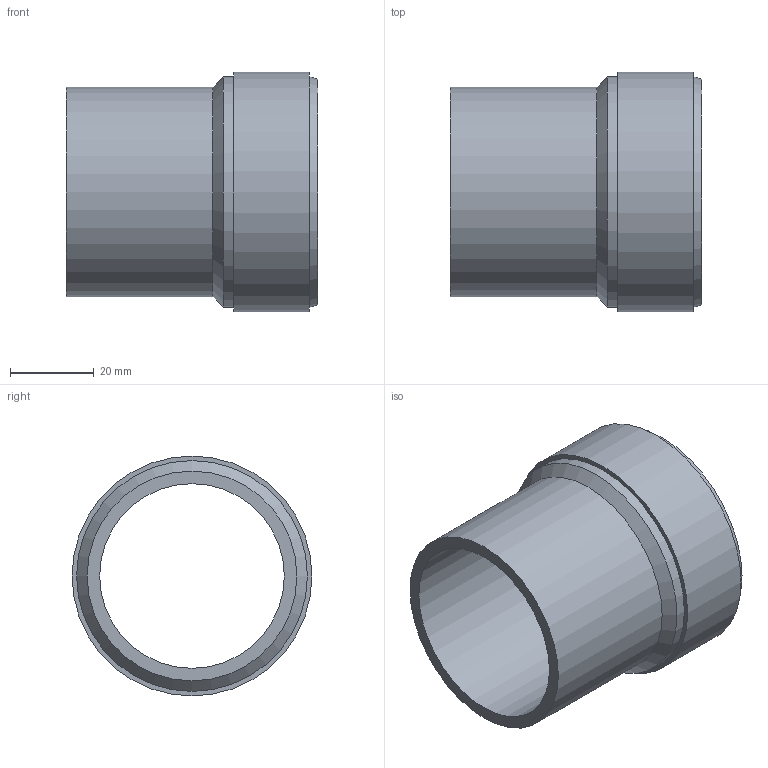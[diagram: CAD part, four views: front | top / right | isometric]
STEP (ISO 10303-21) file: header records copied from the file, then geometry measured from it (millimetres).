
FILE_DESCRIPTION(/* description */ (''),/* implementation_level */ '2;1');
FILE_NAME(/* name */ 'Z:\Geberit\Export\NewStep\PE Übergang mit Innengewinde 2\stp\361723.stp',/* time_stamp */ '2014-04-03T19:13:23+02:00',/* author */ ('nelson'),/* organization */ (''),/* preprocessor_version */ 'ST-DEVELOPER v15.2',/* originating_system */ 'Autodesk Inventor 2014',/* authorisation */ '');
FILE_SCHEMA (('AUTOMOTIVE_DESIGN { 1 0 10303 214 3 1 1 }'));
Length unit declared in the file: millimetre
Products named in the file (1): 361723
Bounding box: 60 x 57.2 x 57.2 mm (x, y, z)
Volume: 38563.9 mm3; surface area: 20042.5 mm2
Topology: 1 solids, 1 shells, 12 faces, 19 edges, 12 vertices
Faces by surface type: cylinder 5, plane 5, cone 2
Full cylindrical faces by diameter (mm): 44 x1, 44.845 x1, 50 x1, 55 x1, 57.2 x1
Entity records: 279 total; most frequent: DIRECTION 50, CARTESIAN_POINT 37, AXIS2_PLACEMENT_3D 25, EDGE_LOOP 24, ORIENTED_EDGE 24, FACE_BOUND 16, CIRCLE 12, VERTEX_POINT 12
